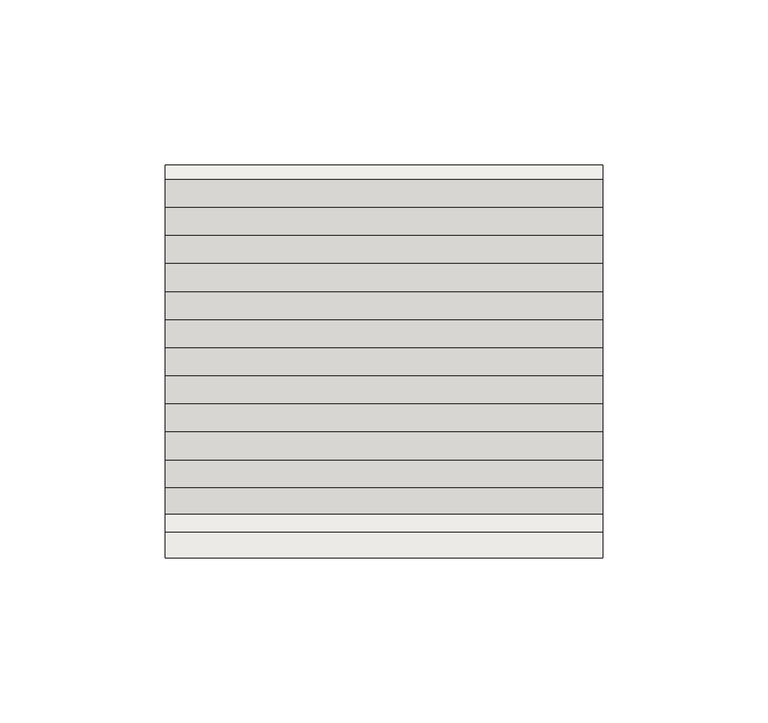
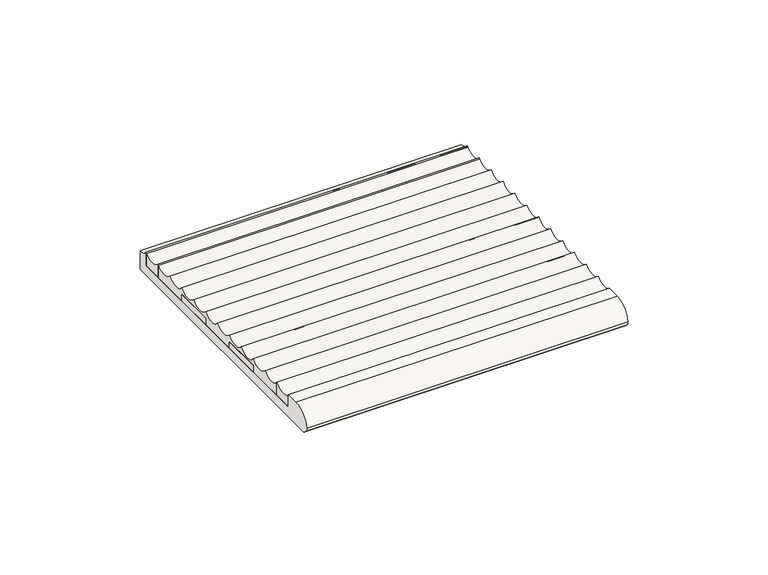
"""IFC4 building model written with IfcOpenShell, lengths in millimetres: slab geometry, ROSA GRES_003 : Pieza 003_Aqua_Marino_Anti-Slip."""

from ifc_helpers import new_model, si_unit, point, frame, frame_2d, origin, place, context, project, spatial, polyline, circle_curve, trimmed, segment, composite_curve, outline, extrude, source, transform, mapped, element, save


def slab_95035083(model_context):
    return source(origin(), model_context, "Body", "SweptSolid", [
        extrude(outline(composite_curve([segment(polyline([(7.6419163, 9.4971975), (13.1748183, 9.4971975), (13.1748183, 4.0921512), (114.6668888, 4.0921512), (114.6668888, 10.0184612)]), True, "CONTINUOUS"), segment(trimmed(circle_curve(frame_2d((118.9168888, 13.6516438)), 5.5912893), [point((114.6668888, 10.0184612))], [point((118.9168888, 8.0603545))], True, "CARTESIAN"), True, "CONTINUOUS"), segment(polyline([(118.9168888, 8.0603545), (118.9168888, 0.0), (1.8518481, 0.0), (0.5422562, 1.309592)]), True, "CONTINUOUS"), segment(trimmed(circle_curve(frame_2d((1.9104791, 2.6778148)), 1.9349594), [point((0.5422562, 1.309592))], [point((0.0, 2.9846331))], False, "CARTESIAN"), True, "CONTINUOUS"), segment(trimmed(circle_curve(frame_2d((7.6419163, 1.7573601)), 7.7398374), [point((0.0, 2.9846331))], [point((7.6419163, 9.4971975))], False, "CARTESIAN"), True, "CONTINUOUS")], self_intersect=False)), frame((0.0, 0.0, 0.0), z_axis=(1.0, 0.0, 0.0), x_axis=(0.0, 1.0, 0.0)), (0.0, 0.0, 1.0), 132.4736896),
        extrude(outline(composite_curve([segment(trimmed(circle_curve(frame_2d((110.4168888, 13.6516438)), 5.5912893), [point((106.1668888, 10.0184612))], [point((114.6668888, 10.0184612))], True, "CARTESIAN"), True, "CONTINUOUS"), segment(polyline([(114.6668888, 10.0184612), (114.6668888, 4.0921512), (106.1668888, 4.0921512), (106.1668888, 10.0184612)]), True, "CONTINUOUS")], self_intersect=False)), frame((0.0, 0.0, 0.0), z_axis=(1.0, 0.0, 0.0), x_axis=(0.0, 1.0, 0.0)), (0.0, 0.0, 1.0), 132.4736896),
        extrude(outline(polyline([(132.4736896, 89.1668888), (132.4736896, 72.1668888), (0.0, 72.1668888), (0.0, 89.1668888), (132.4736896, 89.1668888)])), frame((0.0, 0.0, 4.0921512), z_axis=(0.0, 0.0, 1.0), x_axis=(1.0, 0.0, 0.0)), (0.0, 0.0, 1.0), 2.92631),
        extrude(outline(polyline([(132.4736896, 55.1668888), (132.4736896, 38.1668888), (0.0, 38.1668888), (0.0, 55.1668888), (132.4736896, 55.1668888)])), frame((0.0, 0.0, 4.0921512), z_axis=(0.0, 0.0, 1.0), x_axis=(1.0, 0.0, 0.0)), (0.0, 0.0, 1.0), 2.92631),
        extrude(outline(composite_curve([segment(trimmed(circle_curve(frame_2d((16.9168888, 13.6516438)), 5.5912893), [point((13.1748183, 9.4971975))], [point((21.1668888, 10.0184612))], True, "CARTESIAN"), True, "CONTINUOUS"), segment(polyline([(21.1668888, 10.0184612), (21.1668888, 4.0921512), (13.1748183, 4.0921512), (13.1748183, 9.4971975)]), True, "CONTINUOUS")], self_intersect=False)), frame((0.0, 0.0, 0.0), z_axis=(1.0, 0.0, 0.0), x_axis=(0.0, 1.0, 0.0)), (0.0, 0.0, 1.0), 132.4736896),
        extrude(outline(composite_curve([segment(trimmed(circle_curve(frame_2d((25.4168888, 13.6553338)), 5.5912893), [point((21.1668888, 10.0221512))], [point((29.6668888, 10.0221512))], True, "CARTESIAN"), True, "CONTINUOUS"), segment(trimmed(circle_curve(frame_2d((33.9168888, 13.6553338)), 5.5912893), [point((29.6668888, 10.0221512))], [point((38.1668888, 10.0221512))], True, "CARTESIAN"), True, "CONTINUOUS"), segment(trimmed(circle_curve(frame_2d((42.4168888, 13.6553338)), 5.5912893), [point((38.1668888, 10.0221512))], [point((46.6668888, 10.0221512))], True, "CARTESIAN"), True, "CONTINUOUS"), segment(trimmed(circle_curve(frame_2d((50.9168888, 13.6553338)), 5.5912893), [point((46.6668888, 10.0221512))], [point((55.1668888, 10.0221512))], True, "CARTESIAN"), True, "CONTINUOUS"), segment(trimmed(circle_curve(frame_2d((59.4168888, 13.6553338)), 5.5912893), [point((55.1668888, 10.0221512))], [point((63.6668888, 10.0221512))], True, "CARTESIAN"), True, "CONTINUOUS"), segment(trimmed(circle_curve(frame_2d((67.9168888, 13.6553338)), 5.5912893), [point((63.6668888, 10.0221512))], [point((72.1668888, 10.0221512))], True, "CARTESIAN"), True, "CONTINUOUS"), segment(trimmed(circle_curve(frame_2d((76.4168888, 13.6553338)), 5.5912893), [point((72.1668888, 10.0221512))], [point((80.6668888, 10.0221512))], True, "CARTESIAN"), True, "CONTINUOUS"), segment(trimmed(circle_curve(frame_2d((84.9168888, 13.6553338)), 5.5912893), [point((80.6668888, 10.0221512))], [point((89.1668888, 10.0221512))], True, "CARTESIAN"), True, "CONTINUOUS"), segment(trimmed(circle_curve(frame_2d((93.4168888, 13.6553338)), 5.5912893), [point((89.1668888, 10.0221512))], [point((97.6668888, 10.0221512))], True, "CARTESIAN"), True, "CONTINUOUS"), segment(trimmed(circle_curve(frame_2d((101.9168888, 13.6553338)), 5.5912893), [point((97.6668888, 10.0221512))], [point((106.1668888, 10.0221512))], True, "CARTESIAN"), True, "CONTINUOUS"), segment(polyline([(106.1668888, 10.0221512), (106.1668888, 4.0921512), (89.1668888, 4.0921512), (89.1668888, 7.0184612), (72.1668888, 7.0184612), (72.1668888, 4.0921512), (55.1668888, 4.0921512), (55.1668888, 7.0184612), (38.1668888, 7.0184612), (38.1668888, 4.0921512), (21.1668888, 4.0921512), (21.1668888, 10.0221512)]), True, "CONTINUOUS")], self_intersect=False)), frame((0.0, 0.0, 0.0), z_axis=(1.0, 0.0, 0.0), x_axis=(0.0, 1.0, 0.0)), (0.0, 0.0, 1.0), 132.4736896),
    ])


if __name__ == "__main__":
    model = new_model("IFC4")
    model_context = context("Model", 3, world=origin())
    ifc_project = project(units=[si_unit("LENGTHUNIT", "METRE", prefix="MILLI")], contexts=[model_context])
    site = spatial("IfcSite", under=ifc_project)
    building = spatial("IfcBuilding", under=site)
    placement = place(None, origin())
    slab_shape = slab_95035083(model_context)
    element("IfcSlab", 1, ObjectType="ROSA GRES_003 : Pieza 003_Aqua_Marino_Anti-Slip", at=placement, inside=building, context=model_context, shape_type="MappedRepresentation", body=[
        mapped(slab_shape, transform((0.0, 0.0, 0.0), x_axis=(1.0, 0.0, 0.0), y_axis=(0.0, 1.0, 0.0), z_axis=(0.0, 0.0, 1.0))),
    ])
    save(model, "model.ifc")
